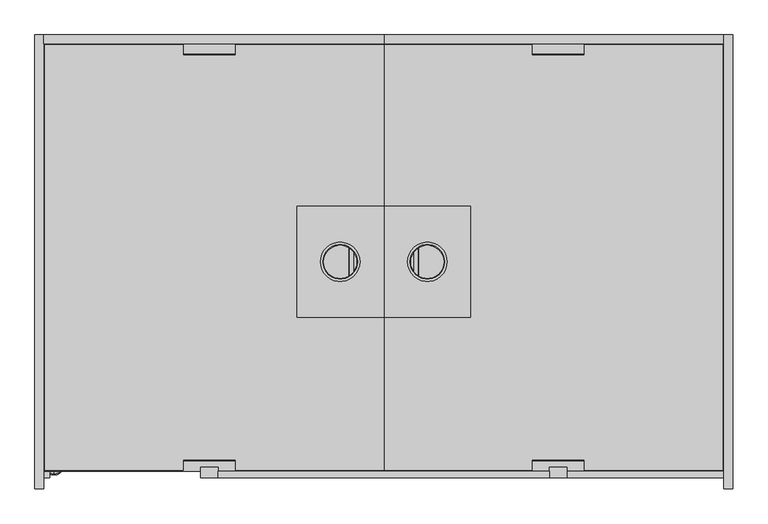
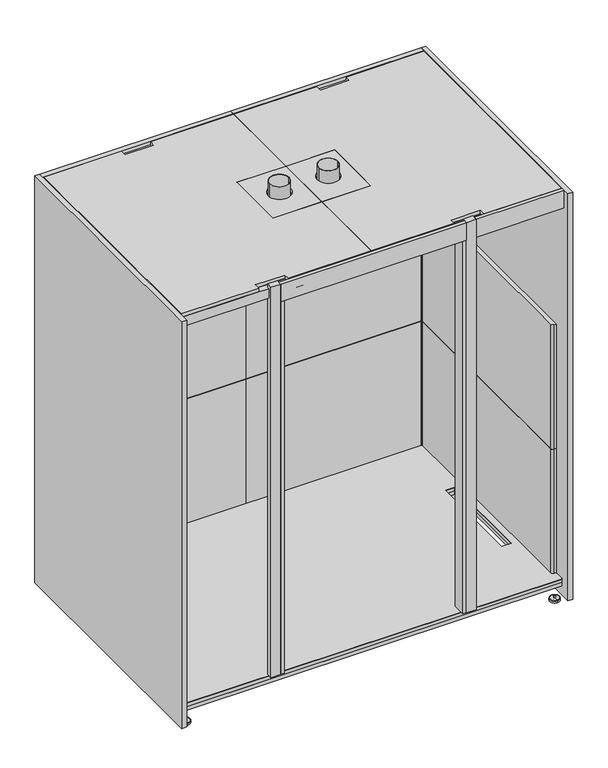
"""IFC4 building model written with IfcOpenShell, lengths in millimetres: furniture geometry, Mobiliário_Mobiliário de Escritório_Cabine Acústica 02 Pessoas - CT 02 PM FM_Marelli : Mobiliário_Mobiliário de Escritório_Cabine Acústica 02 Pessoas - CT 02 PM FM_Marelli."""

from ifc_helpers import new_model, si_unit, point, frame, frame_2d, origin, place, context, project, spatial, polyline, circle_curve, ellipse_curve, trimmed, segment, composite_curve, outline, extrude, faceted_brep, source, transform, mapped, element, save
from ifc_brep_helpers import plane_surface, cylinder_surface, revolved_surface, advanced_brep


def furniture_499643ce(model_context):
    return source(origin(), model_context, "Body", "SolidModel", [
        extrude(outline(polyline([(1000.0, 1300.0), (1000.0, 1275.0), (25.0, 1275.0), (25.0, 1300.0), (1000.0, 1300.0)])), frame((0.0, 0.0, 24.5), z_axis=(0.0, 0.0, 1.0), x_axis=(1.0, 0.0, 0.0)), (0.0, 0.0, 1.0), 2200.0),
        extrude(outline(polyline([(525.0, 50.0), (1475.0, 50.0), (1475.0, 32.0), (525.0, 32.0), (525.0, 50.0)])), frame((0.0, 0.0, 2128.5), z_axis=(0.0, 0.0, 1.0), x_axis=(1.0, 0.0, 0.0)), (0.0, 0.0, 1.0), 96.0),
        extrude(outline(polyline([(975.0, 945.0), (975.0, 915.0), (25.0, 915.0), (25.0, 945.0), (975.0, 945.0)])), frame((0.0, 0.0, 2156.5), z_axis=(0.0, 0.0, 1.0), x_axis=(1.0, 0.0, 0.0)), (0.0, 0.0, 1.0), 50.0),
        extrude(outline(polyline([(1945.0, 410.0), (1945.0, 380.0), (25.0, 380.0), (25.0, 410.0), (1945.0, 410.0)])), frame((0.0, 0.0, 2156.5), z_axis=(0.0, 0.0, 1.0), x_axis=(1.0, 0.0, 0.0)), (0.0, 0.0, 1.0), 50.0),
        extrude(outline(polyline([(43.0, 32.0), (25.0, 32.0), (25.0, 102.0), (43.0, 102.0), (43.0, 32.0)])), frame((0.0, 0.0, 114.5), z_axis=(0.0, 0.0, 1.0), x_axis=(1.0, 0.0, 0.0)), (0.0, 0.0, 1.0), 2014.0),
        extrude(outline(polyline([(475.0, 32.0), (475.0, 62.0), (525.0, 62.0), (525.0, 32.0), (475.0, 32.0)])), frame((0.0, 0.0, 114.5), z_axis=(0.0, 0.0, 1.0), x_axis=(1.0, 0.0, 0.0)), (0.0, 0.0, 1.0), 2110.0),
        extrude(outline(polyline([(1525.0, 32.0), (1475.0, 32.0), (1475.0, 62.0), (1525.0, 62.0), (1525.0, 32.0)])), frame((0.0, 0.0, 114.5), z_axis=(0.0, 0.0, 1.0), x_axis=(1.0, 0.0, 0.0)), (0.0, 0.0, 1.0), 2110.0),
        extrude(outline(composite_curve([segment(polyline([(25.0, 102.0), (25.0, 1275.0), (45.5304331, 1254.4695669)]), True, "CONTINUOUS"), segment(trimmed(circle_curve(frame_2d((43.1599032, 1251.4457873)), 3.84222), [point((45.5304331, 1254.4695669))], [point((47.0, 1251.3180705))], False, "CARTESIAN"), True, "CONTINUOUS"), segment(polyline([(47.0, 1251.3180705), (47.0, 1249.6361409), (47.0, 113.0)]), True, "CONTINUOUS"), segment(trimmed(circle_curve(frame_2d((36.0, 113.0)), 11.0), [point((47.0, 113.0))], [point((36.0, 102.0))], False, "CARTESIAN"), True, "CONTINUOUS"), segment(polyline([(36.0, 102.0), (25.0, 102.0)]), True, "CONTINUOUS")], self_intersect=False)), frame((0.0, 0.0, 1459.7), z_axis=(0.0, 0.0, 1.0), x_axis=(1.0, 0.0, 0.0)), (0.0, 0.0, 1.0), 671.8),
        extrude(outline(composite_curve([segment(polyline([(25.0, 102.0), (25.0, 1275.0), (45.5304331, 1254.4695669)]), True, "CONTINUOUS"), segment(trimmed(circle_curve(frame_2d((43.1599032, 1251.4457873)), 3.84222), [point((45.5304331, 1254.4695669))], [point((47.0, 1251.3180705))], False, "CARTESIAN"), True, "CONTINUOUS"), segment(polyline([(47.0, 1251.3180705), (47.0, 113.0)]), True, "CONTINUOUS"), segment(trimmed(circle_curve(frame_2d((36.0, 113.0)), 11.0), [point((47.0, 113.0))], [point((36.0, 102.0))], False, "CARTESIAN"), True, "CONTINUOUS"), segment(polyline([(36.0, 102.0), (25.0, 102.0)]), True, "CONTINUOUS")], self_intersect=False)), frame((0.0, 0.0, 787.1), z_axis=(0.0, 0.0, 1.0), x_axis=(1.0, 0.0, 0.0)), (0.0, 0.0, 1.0), 671.0),
        extrude(outline(composite_curve([segment(polyline([(25.0, 1275.0), (1975.0, 1275.0), (1954.4695669, 1254.4695669)]), True, "CONTINUOUS"), segment(trimmed(circle_curve(frame_2d((1951.4457873, 1256.8400968)), 3.84222), [point((1954.4695669, 1254.4695669))], [point((1951.3180705, 1253.0))], False, "CARTESIAN"), True, "CONTINUOUS"), segment(polyline([(1951.3180705, 1253.0), (1949.6361409, 1253.0), (1050.3638591, 1253.0), (48.6819295, 1253.0)]), True, "CONTINUOUS"), segment(trimmed(circle_curve(frame_2d((48.5542127, 1256.8400968)), 3.84222), [point((48.6819295, 1253.0))], [point((45.5304331, 1254.4695669))], False, "CARTESIAN"), True, "CONTINUOUS"), segment(polyline([(45.5304331, 1254.4695669), (25.0, 1275.0)]), True, "CONTINUOUS")], self_intersect=False)), frame((0.0, 0.0, 1459.7), z_axis=(0.0, 0.0, 1.0), x_axis=(1.0, 0.0, 0.0)), (0.0, 0.0, 1.0), 671.8),
        extrude(outline(composite_curve([segment(polyline([(1949.6361409, 1253.0), (1050.3638591, 1253.0), (48.6819295, 1253.0)]), True, "CONTINUOUS"), segment(trimmed(circle_curve(frame_2d((48.5542127, 1256.8400968)), 3.84222), [point((48.6819295, 1253.0))], [point((45.5304331, 1254.4695669))], False, "CARTESIAN"), True, "CONTINUOUS"), segment(polyline([(45.5304331, 1254.4695669), (25.0, 1275.0), (1975.0, 1275.0), (1954.4695669, 1254.4695669)]), True, "CONTINUOUS"), segment(trimmed(circle_curve(frame_2d((1951.4457873, 1256.8400968)), 3.84222), [point((1954.4695669, 1254.4695669))], [point((1951.3180705, 1253.0))], False, "CARTESIAN"), True, "CONTINUOUS"), segment(polyline([(1951.3180705, 1253.0), (1949.6361409, 1253.0)]), True, "CONTINUOUS")], self_intersect=False)), frame((0.0, 0.0, 787.1), z_axis=(0.0, 0.0, 1.0), x_axis=(1.0, 0.0, 0.0)), (0.0, 0.0, 1.0), 671.0),
        extrude(outline(composite_curve([segment(polyline([(1949.6361409, 1253.0), (1050.3638591, 1253.0), (48.6819295, 1253.0)]), True, "CONTINUOUS"), segment(trimmed(circle_curve(frame_2d((48.5542127, 1256.8400968)), 3.84222), [point((48.6819295, 1253.0))], [point((45.5304331, 1254.4695669))], False, "CARTESIAN"), True, "CONTINUOUS"), segment(polyline([(45.5304331, 1254.4695669), (25.0, 1275.0), (1975.0, 1275.0), (1954.4695669, 1254.4695669)]), True, "CONTINUOUS"), segment(trimmed(circle_curve(frame_2d((1951.4457873, 1256.8400968)), 3.84222), [point((1954.4695669, 1254.4695669))], [point((1951.3180705, 1253.0))], False, "CARTESIAN"), True, "CONTINUOUS"), segment(polyline([(1951.3180705, 1253.0), (1949.6361409, 1253.0)]), True, "CONTINUOUS")], self_intersect=False)), frame((0.0, 0.0, 113.5), z_axis=(0.0, 0.0, 1.0), x_axis=(1.0, 0.0, 0.0)), (0.0, 0.0, 1.0), 672.0),
        extrude(outline(composite_curve([segment(polyline([(1975.0, 102.0), (1964.0, 102.0)]), True, "CONTINUOUS"), segment(trimmed(circle_curve(frame_2d((1964.0, 113.0)), 11.0), [point((1964.0, 102.0))], [point((1953.0, 113.0))], False, "CARTESIAN"), True, "CONTINUOUS"), segment(polyline([(1953.0, 113.0), (1953.0, 1251.3180705)]), True, "CONTINUOUS"), segment(trimmed(circle_curve(frame_2d((1956.8400968, 1251.4457873)), 3.84222), [point((1953.0, 1251.3180705))], [point((1954.4695669, 1254.4695669))], False, "CARTESIAN"), True, "CONTINUOUS"), segment(polyline([(1954.4695669, 1254.4695669), (1975.0, 1275.0), (1975.0, 102.0)]), True, "CONTINUOUS")], self_intersect=False)), frame((0.0, 0.0, 787.1), z_axis=(0.0, 0.0, 1.0), x_axis=(1.0, 0.0, 0.0)), (0.0, 0.0, 1.0), 671.0),
        extrude(outline(composite_curve([segment(polyline([(1975.0, 102.0), (1964.0, 102.0)]), True, "CONTINUOUS"), segment(trimmed(circle_curve(frame_2d((1964.0, 113.0)), 11.0), [point((1964.0, 102.0))], [point((1953.0, 113.0))], False, "CARTESIAN"), True, "CONTINUOUS"), segment(polyline([(1953.0, 113.0), (1953.0, 1251.3180705)]), True, "CONTINUOUS"), segment(trimmed(circle_curve(frame_2d((1956.8400968, 1251.4457873)), 3.84222), [point((1953.0, 1251.3180705))], [point((1954.4695669, 1254.4695669))], False, "CARTESIAN"), True, "CONTINUOUS"), segment(polyline([(1954.4695669, 1254.4695669), (1975.0, 1275.0), (1975.0, 102.0)]), True, "CONTINUOUS")], self_intersect=False)), frame((0.0, 0.0, 113.5), z_axis=(0.0, 0.0, 1.0), x_axis=(1.0, 0.0, 0.0)), (0.0, 0.0, 1.0), 672.0),
        extrude(outline(polyline([(575.0, 53.0), (575.0, 83.0), (425.0, 83.0), (425.0, 53.0), (28.0, 53.0), (28.0, 1272.0), (425.0, 1272.0), (425.0, 1242.0), (575.0, 1242.0), (575.0, 1272.0), (1000.0, 1272.0), (1000.0, 810.0), (750.0, 810.0), (750.0, 490.0), (1000.0, 490.0), (1000.0, 53.0), (575.0, 53.0)])), frame((0.0, 0.0, 2206.5), z_axis=(0.0, 0.0, 1.0), x_axis=(1.0, 0.0, 0.0)), (0.0, 0.0, 1.0), 18.0),
        extrude(outline(polyline([(1000.0, 810.0), (1000.0, 490.0), (750.0, 490.0), (750.0, 810.0), (1000.0, 810.0)]), holes=[composite_curve([segment(trimmed(circle_curve(frame_2d((875.0, 650.0)), 56.55), [point((818.45, 650.0))], [point((931.55, 650.0))], True, "CARTESIAN"), True, "CONTINUOUS"), segment(trimmed(circle_curve(frame_2d((875.0, 650.0)), 56.55), [point((931.55, 650.0))], [point((818.45, 650.0))], True, "CARTESIAN"), True, "CONTINUOUS")], self_intersect=False)]), frame((0.0, 0.0, 2206.5), z_axis=(0.0, 0.0, 1.0), x_axis=(1.0, 0.0, 0.0)), (0.0, 0.0, 1.0), 18.0),
        extrude(outline(composite_curve([segment(trimmed(circle_curve(frame_2d((875.0, 650.0)), 78.05), [point((796.95, 650.0))], [point((953.05, 650.0))], False, "CARTESIAN"), True, "CONTINUOUS"), segment(trimmed(circle_curve(frame_2d((875.0, 650.0)), 78.05), [point((953.05, 650.0))], [point((796.95, 650.0))], False, "CARTESIAN"), True, "CONTINUOUS")], self_intersect=False), holes=[composite_curve([segment(trimmed(circle_curve(frame_2d((875.0, 650.0)), 47.3), [point((827.7, 650.0))], [point((922.3, 650.0))], True, "CARTESIAN"), True, "CONTINUOUS"), segment(trimmed(circle_curve(frame_2d((875.0, 650.0)), 47.3), [point((922.3, 650.0))], [point((827.7, 650.0))], True, "CARTESIAN"), True, "CONTINUOUS")], self_intersect=False)]), frame((0.0, 0.0, 2202.9), z_axis=(0.0, 0.0, 1.0), x_axis=(1.0, 0.0, 0.0)), (0.0, 0.0, 1.0), 3.6),
        extrude(outline(composite_curve([segment(trimmed(circle_curve(frame_2d((875.0, 650.0)), 49.25), [point((825.75, 650.0))], [point((924.25, 650.0))], False, "CARTESIAN"), True, "CONTINUOUS"), segment(trimmed(circle_curve(frame_2d((875.0, 650.0)), 49.25), [point((924.25, 650.0))], [point((825.75, 650.0))], False, "CARTESIAN"), True, "CONTINUOUS")], self_intersect=False), holes=[composite_curve([segment(trimmed(circle_curve(frame_2d((875.0, 650.0)), 47.3), [point((922.3, 650.0))], [point((827.7, 650.0))], True, "CARTESIAN"), True, "CONTINUOUS"), segment(trimmed(circle_curve(frame_2d((875.0, 650.0)), 47.3), [point((827.7, 650.0))], [point((922.3, 650.0))], True, "CARTESIAN"), True, "CONTINUOUS")], self_intersect=False)]), frame((0.0, 0.0, 2206.5), z_axis=(0.0, 0.0, 1.0), x_axis=(1.0, 0.0, 0.0)), (0.0, 0.0, 1.0), 80.0),
        extrude(outline(composite_curve([segment(polyline([(1252.9978767, 2109.5), (124.0, 2109.5)]), True, "CONTINUOUS"), segment(trimmed(circle_curve(frame_2d((124.0, 2131.5)), 22.0), [point((124.0, 2109.5))], [point((102.0, 2131.5))], False, "CARTESIAN"), True, "CONTINUOUS"), segment(polyline([(102.0, 2131.5), (1252.9978767, 2131.5), (1252.9978767, 2109.5)]), True, "CONTINUOUS")], self_intersect=False)), frame((47.0, 0.0, 0.0), z_axis=(1.0, 0.0, 0.0), x_axis=(0.0, 1.0, 0.0)), (0.0, 0.0, 1.0), 635.333),
        extrude(outline(composite_curve([segment(trimmed(circle_curve(frame_2d((556.9631087, 706.9631087)), 3.0368913), [point((556.9631087, 710.0))], [point((560.0, 706.9631087))], False, "CARTESIAN"), True, "CONTINUOUS"), segment(polyline([(560.0, 706.9631087), (560.0, 593.0368913)]), True, "CONTINUOUS"), segment(trimmed(circle_curve(frame_2d((556.9631087, 593.0368913)), 3.0368913), [point((560.0, 593.0368913))], [point((556.9631087, 590.0))], False, "CARTESIAN"), True, "CONTINUOUS"), segment(polyline([(556.9631087, 590.0), (443.0368913, 590.0)]), True, "CONTINUOUS"), segment(trimmed(circle_curve(frame_2d((443.0368913, 593.0368913)), 3.0368913), [point((443.0368913, 590.0))], [point((440.0, 593.0368913))], False, "CARTESIAN"), True, "CONTINUOUS"), segment(polyline([(440.0, 593.0368913), (440.0, 706.9631087)]), True, "CONTINUOUS"), segment(trimmed(circle_curve(frame_2d((443.0368913, 706.9631087)), 3.0368913), [point((440.0, 706.9631087))], [point((443.0368913, 710.0))], False, "CARTESIAN"), True, "CONTINUOUS"), segment(polyline([(443.0368913, 710.0), (556.9631087, 710.0)]), True, "CONTINUOUS")], self_intersect=False), holes=[composite_curve([segment(polyline([(496.0, 700.0), (496.0, 600.0)]), True, "CONTINUOUS"), segment(trimmed(circle_curve(frame_2d((500.0, 600.0)), 4.0), [point((496.0, 600.0))], [point((504.0, 600.0))], True, "CARTESIAN"), True, "CONTINUOUS"), segment(polyline([(504.0, 600.0), (504.0, 700.0)]), True, "CONTINUOUS"), segment(trimmed(circle_curve(frame_2d((500.0, 700.0)), 4.0), [point((504.0, 700.0))], [point((496.0, 700.0))], True, "CARTESIAN"), True, "CONTINUOUS")], self_intersect=False), composite_curve([segment(polyline([(480.0, 690.0), (480.0, 610.0)]), True, "CONTINUOUS"), segment(trimmed(circle_curve(frame_2d((484.0, 610.0)), 4.0), [point((480.0, 610.0))], [point((488.0, 610.0))], True, "CARTESIAN"), True, "CONTINUOUS"), segment(polyline([(488.0, 610.0), (488.0, 690.0)]), True, "CONTINUOUS"), segment(trimmed(circle_curve(frame_2d((484.0, 690.0)), 4.0), [point((488.0, 690.0))], [point((480.0, 690.0))], True, "CARTESIAN"), True, "CONTINUOUS")], self_intersect=False), composite_curve([segment(polyline([(464.0, 680.0), (464.0, 620.0)]), True, "CONTINUOUS"), segment(trimmed(circle_curve(frame_2d((468.0, 620.0)), 4.0), [point((464.0, 620.0))], [point((472.0, 620.0))], True, "CARTESIAN"), True, "CONTINUOUS"), segment(polyline([(472.0, 620.0), (472.0, 680.0)]), True, "CONTINUOUS"), segment(trimmed(circle_curve(frame_2d((468.0, 680.0)), 4.0), [point((472.0, 680.0))], [point((464.0, 680.0))], True, "CARTESIAN"), True, "CONTINUOUS")], self_intersect=False), composite_curve([segment(polyline([(448.0, 670.0), (448.0, 630.0)]), True, "CONTINUOUS"), segment(trimmed(circle_curve(frame_2d((452.0, 630.0)), 4.0), [point((448.0, 630.0))], [point((456.0, 630.0))], True, "CARTESIAN"), True, "CONTINUOUS"), segment(polyline([(456.0, 630.0), (456.0, 670.0)]), True, "CONTINUOUS"), segment(trimmed(circle_curve(frame_2d((452.0, 670.0)), 4.0), [point((456.0, 670.0))], [point((448.0, 670.0))], True, "CARTESIAN"), True, "CONTINUOUS")], self_intersect=False), composite_curve([segment(trimmed(circle_curve(frame_2d((516.0, 690.0)), 4.0), [point((520.0, 690.0))], [point((512.0, 690.0))], True, "CARTESIAN"), True, "CONTINUOUS"), segment(polyline([(512.0, 690.0), (512.0, 610.0)]), True, "CONTINUOUS"), segment(trimmed(circle_curve(frame_2d((516.0, 610.0)), 4.0), [point((512.0, 610.0))], [point((520.0, 610.0))], True, "CARTESIAN"), True, "CONTINUOUS"), segment(polyline([(520.0, 610.0), (520.0, 690.0)]), True, "CONTINUOUS")], self_intersect=False), composite_curve([segment(trimmed(circle_curve(frame_2d((532.0, 680.0)), 4.0), [point((536.0, 680.0))], [point((528.0, 680.0))], True, "CARTESIAN"), True, "CONTINUOUS"), segment(polyline([(528.0, 680.0), (528.0, 620.0)]), True, "CONTINUOUS"), segment(trimmed(circle_curve(frame_2d((532.0, 620.0)), 4.0), [point((528.0, 620.0))], [point((536.0, 620.0))], True, "CARTESIAN"), True, "CONTINUOUS"), segment(polyline([(536.0, 620.0), (536.0, 680.0)]), True, "CONTINUOUS")], self_intersect=False), composite_curve([segment(trimmed(circle_curve(frame_2d((548.0, 670.0)), 4.0), [point((552.0, 670.0))], [point((544.0, 670.0))], True, "CARTESIAN"), True, "CONTINUOUS"), segment(polyline([(544.0, 670.0), (544.0, 630.0)]), True, "CONTINUOUS"), segment(trimmed(circle_curve(frame_2d((548.0, 630.0)), 4.0), [point((544.0, 630.0))], [point((552.0, 630.0))], True, "CARTESIAN"), True, "CONTINUOUS"), segment(polyline([(552.0, 630.0), (552.0, 670.0)]), True, "CONTINUOUS")], self_intersect=False)]), frame((0.0, 0.0, 2107.4845827), z_axis=(0.0, 0.0, 1.0), x_axis=(1.0, 0.0, 0.0)), (0.0, 0.0, 1.0), 2.0154173),
        extrude(outline(polyline([(1975.0, 1275.0), (1975.0, 50.0), (25.0, 50.0), (25.0, 1275.0), (1975.0, 1275.0)]), holes=[polyline([(83.95, 900.0), (83.95, 400.0), (131.05, 400.0), (131.05, 900.0), (83.95, 900.0)]), polyline([(1916.05, 400.0), (1916.05, 900.0), (1868.95, 900.0), (1868.95, 400.0), (1916.05, 400.0)])]), frame((0.0, 0.0, 74.5), z_axis=(0.0, 0.0, 1.0), x_axis=(1.0, 0.0, 0.0)), (0.0, 0.0, 1.0), 18.0),
        advanced_brep(
        [(1945.0, 65.0, 0.0), (1945.0, 40.0, 0.0), (1945.0, 90.0, 0.0), (1945.0, 87.4638086, 12.5), (1945.0, 42.5361914, 12.5), (1945.0, 65.0, 12.5), (1945.0, 90.0, 9.9638086), (1945.0, 40.0, 9.9638086)],
        [
            (0, 1),
            (1, 2, circle_curve(frame((1945.0, 65.0, 0.0), z_axis=(0.0, 0.0, -1.0), x_axis=(0.0, -1.0, 0.0)), 25.0)),
            (2, 0),
            (2, 1, circle_curve(frame((1945.0, 65.0, 0.0), z_axis=(0.0, 0.0, -1.0), x_axis=(0.0, -1.0, 0.0)), 25.0)),
            (3, 4, circle_curve(frame((1945.0, 65.0, 12.5), z_axis=(0.0, 0.0, 1.0), x_axis=(0.0, -1.0, 0.0)), 22.4638086)),
            (4, 5),
            (5, 3),
            (4, 3, circle_curve(frame((1945.0, 65.0, 12.5), z_axis=(0.0, 0.0, 1.0), x_axis=(0.0, -1.0, 0.0)), 22.4638086)),
            (6, 7, circle_curve(frame((1945.0, 65.0, 9.9638086), z_axis=(0.0, 0.0, 1.0), x_axis=(0.0, -1.0, 0.0)), 25.0)),
            (7, 4, circle_curve(frame((1945.0, 42.5361914, 9.9638086), z_axis=(-1.0, 0.0, 0.0), x_axis=(0.0, 1.0, 0.0)), 2.5361914)),
            (3, 6, circle_curve(frame((1945.0, 87.4638086, 9.9638086), z_axis=(-1.0, 0.0, 0.0), x_axis=(0.0, -1.0, 0.0)), 2.5361914)),
            (7, 6, circle_curve(frame((1945.0, 65.0, 9.9638086), z_axis=(0.0, 0.0, 1.0), x_axis=(0.0, -1.0, 0.0)), 25.0)),
            (1, 7),
            (6, 2),
        ],
        [
            plane_surface(frame((1945.0, 65.0, 0.0), z_axis=(0.0, 0.0, -1.0), x_axis=(0.0, -1.0, 0.0))),
            plane_surface(frame((1945.0, 65.0, 12.5), z_axis=(0.0, 0.0, 1.0), x_axis=(0.0, -1.0, 0.0))),
            revolved_surface(trimmed(ellipse_curve(frame((1945.0, 42.5361914, 9.9638086), z_axis=(1.0, 0.0, 0.0), x_axis=(0.0, 1.0, 0.0)), 2.5361914, 2.5361914), [point((1945.0, 42.5361914, 12.5))], [point((1945.0, 40.0, 9.9638086))], True, "CARTESIAN"), (1945.0, 65.0, 15.0), (0.0, 0.0, -1.0)),
            cylinder_surface(frame((1945.0, 65.0, 15.0), z_axis=(0.0, 0.0, -1.0), x_axis=(0.0, -1.0, 0.0)), 25.0),
        ],
        [
            (0, [[1, 2, 3]]),
            (0, [[-3, 4, -1]]),
            (1, [[5, 6, 7]]),
            (1, [[8, -7, -6]]),
            (2, [[9, 10, -5, 11]]),
            (2, [[12, -11, -8, -10]]),
            (3, [[-2, 13, -9, 14]]),
            (3, [[-4, -14, -12, -13]]),
        ],
    ),
        extrude(outline(composite_curve([segment(trimmed(circle_curve(frame_2d((1945.0, 65.0)), 5.0), [point((1940.0, 65.0))], [point((1950.0, 65.0))], False, "CARTESIAN"), True, "CONTINUOUS"), segment(trimmed(circle_curve(frame_2d((1945.0, 65.0)), 5.0), [point((1950.0, 65.0))], [point((1940.0, 65.0))], False, "CARTESIAN"), True, "CONTINUOUS")], self_intersect=False)), frame((0.0, 0.0, 12.5), z_axis=(0.0, 0.0, 1.0), x_axis=(1.0, 0.0, 0.0)), (0.0, 0.0, 1.0), 12.0),
        advanced_brep(
        [(55.0, 90.0, 0.0), (55.0, 40.0, 0.0), (55.0, 65.0, 0.0), (55.0, 65.0, 12.5), (55.0, 42.5361914, 12.5), (55.0, 87.4638086, 12.5), (55.0, 40.0, 9.9638086), (55.0, 90.0, 9.9638086)],
        [
            (0, 1, circle_curve(frame((55.0, 65.0, 0.0), z_axis=(0.0, 0.0, -1.0), x_axis=(0.0, -1.0, 0.0)), 25.0)),
            (1, 2),
            (2, 0),
            (1, 0, circle_curve(frame((55.0, 65.0, 0.0), z_axis=(0.0, 0.0, -1.0), x_axis=(0.0, -1.0, 0.0)), 25.0)),
            (3, 4),
            (4, 5, circle_curve(frame((55.0, 65.0, 12.5), z_axis=(0.0, 0.0, 1.0), x_axis=(0.0, -1.0, 0.0)), 22.4638086)),
            (5, 3),
            (5, 4, circle_curve(frame((55.0, 65.0, 12.5), z_axis=(0.0, 0.0, 1.0), x_axis=(0.0, -1.0, 0.0)), 22.4638086)),
            (4, 6, circle_curve(frame((55.0, 42.5361914, 9.9638086), z_axis=(1.0, 0.0, 0.0), x_axis=(0.0, 1.0, 0.0)), 2.5361914)),
            (6, 7, circle_curve(frame((55.0, 65.0, 9.9638086), z_axis=(0.0, 0.0, 1.0), x_axis=(0.0, -1.0, 0.0)), 25.0)),
            (7, 5, circle_curve(frame((55.0, 87.4638086, 9.9638086), z_axis=(1.0, 0.0, 0.0), x_axis=(0.0, -1.0, 0.0)), 2.5361914)),
            (7, 6, circle_curve(frame((55.0, 65.0, 9.9638086), z_axis=(0.0, 0.0, 1.0), x_axis=(0.0, -1.0, 0.0)), 25.0)),
            (6, 1),
            (0, 7),
        ],
        [
            plane_surface(frame((55.0, 65.0, 0.0), z_axis=(0.0, 0.0, -1.0), x_axis=(0.0, -1.0, 0.0))),
            plane_surface(frame((55.0, 65.0, 12.5), z_axis=(0.0, 0.0, 1.0), x_axis=(0.0, -1.0, 0.0))),
            revolved_surface(trimmed(ellipse_curve(frame((55.0, 42.5361914, 9.9638086), z_axis=(-1.0, 0.0, 0.0), x_axis=(0.0, 1.0, 0.0)), 2.5361914, 2.5361914), [point((55.0, 40.0, 9.9638086))], [point((55.0, 42.5361914, 12.5))], True, "CARTESIAN"), (55.0, 65.0, 15.0), (0.0, 0.0, 1.0)),
            cylinder_surface(frame((55.0, 65.0, 15.0), z_axis=(0.0, 0.0, 1.0), x_axis=(0.0, -1.0, 0.0)), 25.0),
        ],
        [
            (0, [[1, 2, 3]]),
            (0, [[4, -3, -2]]),
            (1, [[5, 6, 7]]),
            (1, [[-7, 8, -5]]),
            (2, [[-6, 9, 10, 11]]),
            (2, [[-8, -11, 12, -9]]),
            (3, [[-10, 13, -1, 14]]),
            (3, [[-12, -14, -4, -13]]),
        ],
    ),
        extrude(outline(composite_curve([segment(trimmed(circle_curve(frame_2d((55.0, 65.0)), 5.0), [point((60.0, 65.0))], [point((50.0, 65.0))], False, "CARTESIAN"), True, "CONTINUOUS"), segment(trimmed(circle_curve(frame_2d((55.0, 65.0)), 5.0), [point((50.0, 65.0))], [point((60.0, 65.0))], False, "CARTESIAN"), True, "CONTINUOUS")], self_intersect=False)), frame((0.0, 0.0, 12.5), z_axis=(0.0, 0.0, 1.0), x_axis=(1.0, 0.0, 0.0)), (0.0, 0.0, 1.0), 12.0),
        advanced_brep(
        [(1945.0, 1210.0, 0.0), (1945.0, 1260.0, 0.0), (1945.0, 1235.0, 0.0), (1945.0, 1235.0, 12.5), (1945.0, 1257.4638086, 12.5), (1945.0, 1212.5361914, 12.5), (1945.0, 1260.0, 9.9638086), (1945.0, 1210.0, 9.9638086)],
        [
            (0, 1, circle_curve(frame((1945.0, 1235.0, 0.0), z_axis=(0.0, 0.0, -1.0), x_axis=(0.0, 1.0, 0.0)), 25.0)),
            (1, 2),
            (2, 0),
            (1, 0, circle_curve(frame((1945.0, 1235.0, 0.0), z_axis=(0.0, 0.0, -1.0), x_axis=(0.0, 1.0, 0.0)), 25.0)),
            (3, 4),
            (4, 5, circle_curve(frame((1945.0, 1235.0, 12.5), z_axis=(0.0, 0.0, 1.0), x_axis=(0.0, 1.0, 0.0)), 22.4638086)),
            (5, 3),
            (5, 4, circle_curve(frame((1945.0, 1235.0, 12.5), z_axis=(0.0, 0.0, 1.0), x_axis=(0.0, 1.0, 0.0)), 22.4638086)),
            (4, 6, circle_curve(frame((1945.0, 1257.4638086, 9.9638086), z_axis=(-1.0, 0.0, 0.0), x_axis=(0.0, -1.0, 0.0)), 2.5361914)),
            (6, 7, circle_curve(frame((1945.0, 1235.0, 9.9638086), z_axis=(0.0, 0.0, 1.0), x_axis=(0.0, 1.0, 0.0)), 25.0)),
            (7, 5, circle_curve(frame((1945.0, 1212.5361914, 9.9638086), z_axis=(-1.0, 0.0, 0.0), x_axis=(0.0, 1.0, 0.0)), 2.5361914)),
            (7, 6, circle_curve(frame((1945.0, 1235.0, 9.9638086), z_axis=(0.0, 0.0, 1.0), x_axis=(0.0, 1.0, 0.0)), 25.0)),
            (6, 1),
            (0, 7),
        ],
        [
            plane_surface(frame((1945.0, 1235.0, 0.0), z_axis=(0.0, 0.0, -1.0), x_axis=(0.0, 1.0, 0.0))),
            plane_surface(frame((1945.0, 1235.0, 12.5), z_axis=(0.0, 0.0, 1.0), x_axis=(0.0, 1.0, 0.0))),
            revolved_surface(trimmed(ellipse_curve(frame((1945.0, 1257.4638086, 9.9638086), z_axis=(1.0, 0.0, 0.0), x_axis=(0.0, -1.0, 0.0)), 2.5361914, 2.5361914), [point((1945.0, 1260.0, 9.9638086))], [point((1945.0, 1257.4638086, 12.5))], True, "CARTESIAN"), (1945.0, 1235.0, 15.0), (0.0, 0.0, 1.0)),
            cylinder_surface(frame((1945.0, 1235.0, 15.0), z_axis=(0.0, 0.0, 1.0), x_axis=(0.0, 1.0, 0.0)), 25.0),
        ],
        [
            (0, [[1, 2, 3]]),
            (0, [[4, -3, -2]]),
            (1, [[5, 6, 7]]),
            (1, [[-7, 8, -5]]),
            (2, [[-6, 9, 10, 11]]),
            (2, [[-8, -11, 12, -9]]),
            (3, [[-10, 13, -1, 14]]),
            (3, [[-12, -14, -4, -13]]),
        ],
    ),
        extrude(outline(composite_curve([segment(trimmed(circle_curve(frame_2d((1945.0, 1235.0)), 5.0), [point((1940.0, 1235.0))], [point((1950.0, 1235.0))], False, "CARTESIAN"), True, "CONTINUOUS"), segment(trimmed(circle_curve(frame_2d((1945.0, 1235.0)), 5.0), [point((1950.0, 1235.0))], [point((1940.0, 1235.0))], False, "CARTESIAN"), True, "CONTINUOUS")], self_intersect=False)), frame((0.0, 0.0, 12.5), z_axis=(0.0, 0.0, 1.0), x_axis=(1.0, 0.0, 0.0)), (0.0, 0.0, 1.0), 12.0),
        advanced_brep(
        [(55.0, 1235.0, 0.0), (55.0, 1260.0, 0.0), (55.0, 1210.0, 0.0), (55.0, 1212.5361914, 12.5), (55.0, 1257.4638086, 12.5), (55.0, 1235.0, 12.5), (55.0, 1210.0, 9.9638086), (55.0, 1260.0, 9.9638086)],
        [
            (0, 1),
            (1, 2, circle_curve(frame((55.0, 1235.0, 0.0), z_axis=(0.0, 0.0, -1.0), x_axis=(0.0, 1.0, 0.0)), 25.0)),
            (2, 0),
            (2, 1, circle_curve(frame((55.0, 1235.0, 0.0), z_axis=(0.0, 0.0, -1.0), x_axis=(0.0, 1.0, 0.0)), 25.0)),
            (3, 4, circle_curve(frame((55.0, 1235.0, 12.5), z_axis=(0.0, 0.0, 1.0), x_axis=(0.0, 1.0, 0.0)), 22.4638086)),
            (4, 5),
            (5, 3),
            (4, 3, circle_curve(frame((55.0, 1235.0, 12.5), z_axis=(0.0, 0.0, 1.0), x_axis=(0.0, 1.0, 0.0)), 22.4638086)),
            (6, 7, circle_curve(frame((55.0, 1235.0, 9.9638086), z_axis=(0.0, 0.0, 1.0), x_axis=(0.0, 1.0, 0.0)), 25.0)),
            (7, 4, circle_curve(frame((55.0, 1257.4638086, 9.9638086), z_axis=(1.0, 0.0, 0.0), x_axis=(0.0, -1.0, 0.0)), 2.5361914)),
            (3, 6, circle_curve(frame((55.0, 1212.5361914, 9.9638086), z_axis=(1.0, 0.0, 0.0), x_axis=(0.0, 1.0, 0.0)), 2.5361914)),
            (7, 6, circle_curve(frame((55.0, 1235.0, 9.9638086), z_axis=(0.0, 0.0, 1.0), x_axis=(0.0, 1.0, 0.0)), 25.0)),
            (1, 7),
            (6, 2),
        ],
        [
            plane_surface(frame((55.0, 1235.0, 0.0), z_axis=(0.0, 0.0, -1.0), x_axis=(0.0, 1.0, 0.0))),
            plane_surface(frame((55.0, 1235.0, 12.5), z_axis=(0.0, 0.0, 1.0), x_axis=(0.0, 1.0, 0.0))),
            revolved_surface(trimmed(ellipse_curve(frame((55.0, 1257.4638086, 9.9638086), z_axis=(-1.0, 0.0, 0.0), x_axis=(0.0, -1.0, 0.0)), 2.5361914, 2.5361914), [point((55.0, 1257.4638086, 12.5))], [point((55.0, 1260.0, 9.9638086))], True, "CARTESIAN"), (55.0, 1235.0, 15.0), (0.0, 0.0, -1.0)),
            cylinder_surface(frame((55.0, 1235.0, 15.0), z_axis=(0.0, 0.0, -1.0), x_axis=(0.0, 1.0, 0.0)), 25.0),
        ],
        [
            (0, [[1, 2, 3]]),
            (0, [[-3, 4, -1]]),
            (1, [[5, 6, 7]]),
            (1, [[8, -7, -6]]),
            (2, [[9, 10, -5, 11]]),
            (2, [[12, -11, -8, -10]]),
            (3, [[-2, 13, -9, 14]]),
            (3, [[-4, -14, -12, -13]]),
        ],
    ),
        extrude(outline(composite_curve([segment(trimmed(circle_curve(frame_2d((55.0, 1235.0)), 5.0), [point((60.0, 1235.0))], [point((50.0, 1235.0))], False, "CARTESIAN"), True, "CONTINUOUS"), segment(trimmed(circle_curve(frame_2d((55.0, 1235.0)), 5.0), [point((50.0, 1235.0))], [point((60.0, 1235.0))], False, "CARTESIAN"), True, "CONTINUOUS")], self_intersect=False)), frame((0.0, 0.0, 12.5), z_axis=(0.0, 0.0, 1.0), x_axis=(1.0, 0.0, 0.0)), (0.0, 0.0, 1.0), 12.0),
        faceted_brep([(1100.0, 750.0, 2073.5), (1100.0, 750.0, 2109.5), (1100.0, 550.0, 2109.5), (1100.0, 550.0, 2073.5), (1080.5, 730.5, 2075.4509584), (1080.5, 730.5, 2073.5), (1080.5, 569.5, 2073.5), (1080.5, 569.5, 2075.4509584), (1098.0292937, 748.0292937, 2109.5), (1098.0292937, 748.0292937, 2075.4509584), (1098.0292937, 551.9707063, 2075.4509584), (1098.0292937, 551.9707063, 2109.5), (900.0, 550.0, 2109.5), (900.0, 550.0, 2073.5), (919.5, 569.5, 2073.5), (919.5, 569.5, 2075.4509584), (901.9707063, 551.9707063, 2075.4509584), (901.9707063, 551.9707063, 2109.5), (900.0, 750.0, 2109.5), (900.0, 750.0, 2073.5), (919.5, 730.5, 2073.5), (919.5, 730.5, 2075.4509584), (901.9707063, 748.0292937, 2075.4509584), (901.9707063, 748.0292937, 2109.5)], [[[0, 1, 2, 3]], [[4, 5, 6, 7]], [[8, 9, 10, 11]], [[3, 2, 12, 13]], [[7, 6, 14, 15]], [[11, 10, 16, 17]], [[13, 12, 18, 19]], [[15, 14, 20, 21]], [[17, 16, 22, 23]], [[19, 18, 1, 0]], [[3, 13, 19, 0], [5, 20, 14, 6]], [[21, 20, 5, 4]], [[9, 22, 16, 10], [7, 15, 21, 4]], [[23, 22, 9, 8]], [[1, 18, 12, 2], [11, 17, 23, 8]]]),
        extrude(outline(polyline([(1085.0, 735.0), (1085.0, 565.0), (915.0, 565.0), (915.0, 735.0), (1085.0, 735.0)])), frame((0.0, 0.0, 2075.4509584), z_axis=(0.0, 0.0, 1.0), x_axis=(1.0, 0.0, 0.0)), (0.0, 0.0, 1.0), 2.9763056),
        extrude(outline(polyline([(25.0, 0.0), (0.0, 0.0), (0.0, 1300.0), (25.0, 1300.0), (25.0, 0.0)])), frame((0.0, 0.0, 24.5), z_axis=(0.0, 0.0, 1.0), x_axis=(1.0, 0.0, 0.0)), (0.0, 0.0, 1.0), 2200.0),
        extrude(outline(polyline([(2000.0, 0.0), (1975.0, 0.0), (1975.0, 1300.0), (2000.0, 1300.0), (2000.0, 0.0)])), frame((0.0, 0.0, 24.5), z_axis=(0.0, 0.0, 1.0), x_axis=(1.0, 0.0, 0.0)), (0.0, 0.0, 1.0), 2200.0),
        advanced_brep(
        [(47.0, 254.0, 1233.5), (47.0, 175.0, 1233.5), (48.015509, 175.0, 1233.5), (48.015509, 254.0, 1233.5), (47.0, 254.0, 1113.5), (48.015509, 254.0, 1113.5), (48.015509, 175.0, 1113.5), (47.0, 175.0, 1113.5), (51.4706585, 192.5, 1211.0), (51.4706585, 236.5, 1211.0), (51.4706585, 236.5, 1136.0), (51.4706585, 192.5, 1136.0), (48.015509, 236.5, 1211.0), (48.015509, 192.5, 1211.0), (48.015509, 192.5, 1136.0), (48.015509, 236.5, 1136.0)],
        [
            (0, 1),
            (1, 2),
            (2, 3, circle_curve(frame((-106.0027088, 214.5, 1233.5), z_axis=(0.0, 0.0, 1.0), x_axis=(1.0, 0.0, 0.0)), 159.0027088)),
            (3, 0),
            (4, 5),
            (5, 6, circle_curve(frame((-106.0027088, 214.5, 1113.5), z_axis=(0.0, 0.0, -1.0), x_axis=(1.0, 0.0, 0.0)), 159.0027088)),
            (6, 7),
            (7, 4),
            (0, 4),
            (7, 1),
            (6, 2),
            (5, 3),
            (8, 9, circle_curve(frame((-106.0027088, 214.5, 1211.0), z_axis=(0.0, 0.0, 1.0), x_axis=(1.0, 0.0, 0.0)), 159.0027088)),
            (9, 10),
            (10, 11, circle_curve(frame((-106.0027088, 214.5, 1136.0), z_axis=(0.0, 0.0, -1.0), x_axis=(1.0, 0.0, 0.0)), 159.0027088)),
            (11, 8),
            (12, 13),
            (13, 14),
            (14, 15),
            (15, 12),
            (12, 9),
            (8, 13),
            (11, 14),
            (10, 15),
        ],
        [
            plane_surface(frame((47.0, 175.0, 1233.5), z_axis=(0.0, 0.0, 1.0), x_axis=(0.0, -1.0, 0.0))),
            plane_surface(frame((47.0, 175.0, 1113.5), z_axis=(0.0, 0.0, -1.0), x_axis=(0.0, 1.0, 0.0))),
            plane_surface(frame((47.0, 254.0, 1233.5), z_axis=(-1.0, 0.0, 0.0), x_axis=(0.0, 0.0, -1.0))),
            plane_surface(frame((47.0, 175.0, 1233.5), z_axis=(0.0, -1.0, 0.0), x_axis=(0.0, 0.0, -1.0))),
            cylinder_surface(frame((-106.0027088, 214.5, 1113.5), z_axis=(0.0, 0.0, 1.0), x_axis=(1.0, 0.0, 0.0)), 159.0027088),
            plane_surface(frame((48.015509, 254.0, 1233.5), z_axis=(0.0, 1.0, 0.0), x_axis=(0.0, 0.0, -1.0))),
            plane_surface(frame((48.015509, 192.5, 1211.0), z_axis=(1.0, 0.0, 0.0), x_axis=(0.0, 1.0, 0.0))),
            plane_surface(frame((115.0, 236.5, 1211.0), z_axis=(0.0, 0.0, -1.0), x_axis=(-1.0, 0.0, 0.0))),
            plane_surface(frame((115.0, 192.5, 1211.0), z_axis=(0.0, 1.0, 0.0), x_axis=(-1.0, 0.0, 0.0))),
            plane_surface(frame((115.0, 192.5, 1136.0), z_axis=(0.0, 0.0, 1.0), x_axis=(-1.0, 0.0, 0.0))),
            plane_surface(frame((115.0, 236.5, 1136.0), z_axis=(0.0, -1.0, 0.0), x_axis=(-1.0, 0.0, 0.0))),
        ],
        [
            (0, [[1, 2, 3, 4]]),
            (1, [[5, 6, 7, 8]]),
            (2, [[-1, 9, -8, 10]]),
            (3, [[-2, -10, -7, 11]]),
            (4, [[-3, -11, -6, 12], [13, 14, 15, 16]]),
            (5, [[-4, -12, -5, -9]]),
            (6, [[17, 18, 19, 20]]),
            (7, [[-17, 21, -13, 22]]),
            (8, [[-18, -22, -16, 23]]),
            (9, [[-19, -23, -15, 24]]),
            (10, [[-20, -24, -14, -21]]),
        ],
    ),
        extrude(outline(polyline([(236.5, 1136.0), (192.5, 1136.0), (192.5, 1161.0), (236.5, 1161.0), (236.5, 1136.0)]), holes=[composite_curve([segment(trimmed(circle_curve(frame_2d((230.2939968, 1148.5)), 2.2060032), [point((231.76627, 1146.8571787))], [point((231.76627, 1150.1428213))], True, "CARTESIAN"), True, "CONTINUOUS"), segment(polyline([(231.76627, 1150.1428213), (225.2005604, 1156.7085309)]), True, "CONTINUOUS"), segment(trimmed(circle_curve(frame_2d((223.5077688, 1155.2939968)), 2.2060032), [point((225.2005604, 1156.7085309))], [point((223.5077688, 1157.5))], True, "CARTESIAN"), True, "CONTINUOUS"), segment(polyline([(223.5077688, 1157.5), (205.4922312, 1157.5)]), True, "CONTINUOUS"), segment(trimmed(circle_curve(frame_2d((205.4922312, 1155.2939968)), 2.2060032), [point((205.4922312, 1157.5))], [point((203.7994396, 1156.7085309))], True, "CARTESIAN"), True, "CONTINUOUS"), segment(polyline([(203.7994396, 1156.7085309), (197.23373, 1150.1428213)]), True, "CONTINUOUS"), segment(trimmed(circle_curve(frame_2d((198.7060032, 1148.5)), 2.2060032), [point((197.23373, 1150.1428213))], [point((197.23373, 1146.8571787))], True, "CARTESIAN"), True, "CONTINUOUS"), segment(polyline([(197.23373, 1146.8571787), (203.7994396, 1140.2914691)]), True, "CONTINUOUS"), segment(trimmed(circle_curve(frame_2d((205.4922312, 1141.7060032)), 2.2060032), [point((203.7994396, 1140.2914691))], [point((205.4922312, 1139.5))], True, "CARTESIAN"), True, "CONTINUOUS"), segment(polyline([(205.4922312, 1139.5), (223.5077688, 1139.5)]), True, "CONTINUOUS"), segment(trimmed(circle_curve(frame_2d((223.5077688, 1141.7060032)), 2.2060032), [point((223.5077688, 1139.5))], [point((225.2005604, 1140.2914691))], True, "CARTESIAN"), True, "CONTINUOUS"), segment(polyline([(225.2005604, 1140.2914691), (231.76627, 1146.8571787)]), True, "CONTINUOUS")], self_intersect=False)]), frame((48.015509, 0.0, 0.0), z_axis=(1.0, 0.0, 0.0), x_axis=(0.0, 1.0, 0.0)), (0.0, 0.0, 1.0), 4.984491),
        extrude(outline(polyline([(236.5, 1186.0), (236.5, 1161.0), (192.5, 1161.0), (192.5, 1186.0), (236.5, 1186.0)]), holes=[composite_curve([segment(polyline([(231.76627, 1175.1428213), (225.2005604, 1181.7085309)]), True, "CONTINUOUS"), segment(trimmed(circle_curve(frame_2d((223.5077688, 1180.2939968)), 2.2060032), [point((225.2005604, 1181.7085309))], [point((223.5077688, 1182.5))], True, "CARTESIAN"), True, "CONTINUOUS"), segment(polyline([(223.5077688, 1182.5), (205.4922312, 1182.5)]), True, "CONTINUOUS"), segment(trimmed(circle_curve(frame_2d((205.4922312, 1180.2939968)), 2.2060032), [point((205.4922312, 1182.5))], [point((203.7994396, 1181.7085309))], True, "CARTESIAN"), True, "CONTINUOUS"), segment(polyline([(203.7994396, 1181.7085309), (197.23373, 1175.1428213)]), True, "CONTINUOUS"), segment(trimmed(circle_curve(frame_2d((198.7060032, 1173.5)), 2.2060032), [point((197.23373, 1175.1428213))], [point((197.23373, 1171.8571787))], True, "CARTESIAN"), True, "CONTINUOUS"), segment(polyline([(197.23373, 1171.8571787), (203.7994396, 1165.2914691)]), True, "CONTINUOUS"), segment(trimmed(circle_curve(frame_2d((205.4922312, 1166.7060032)), 2.2060032), [point((203.7994396, 1165.2914691))], [point((205.4922312, 1164.5))], True, "CARTESIAN"), True, "CONTINUOUS"), segment(polyline([(205.4922312, 1164.5), (223.5077688, 1164.5)]), True, "CONTINUOUS"), segment(trimmed(circle_curve(frame_2d((223.5077688, 1166.7060032)), 2.2060032), [point((223.5077688, 1164.5))], [point((225.2005604, 1165.2914691))], True, "CARTESIAN"), True, "CONTINUOUS"), segment(polyline([(225.2005604, 1165.2914691), (231.76627, 1171.8571787)]), True, "CONTINUOUS"), segment(trimmed(circle_curve(frame_2d((230.2939968, 1173.5)), 2.2060032), [point((231.76627, 1171.8571787))], [point((231.76627, 1175.1428213))], True, "CARTESIAN"), True, "CONTINUOUS")], self_intersect=False)]), frame((48.015509, 0.0, 0.0), z_axis=(1.0, 0.0, 0.0), x_axis=(0.0, 1.0, 0.0)), (0.0, 0.0, 1.0), 4.984491),
        extrude(outline(polyline([(48.015509, 236.5), (58.015509, 236.5), (53.0, 192.5), (48.015509, 192.5), (48.015509, 236.5)])), frame((0.0, 0.0, 1186.0), z_axis=(0.0, 0.0, 1.0), x_axis=(1.0, 0.0, 0.0)), (0.0, 0.0, 1.0), 25.0),
        extrude(outline(polyline([(1975.0, 1275.0), (1975.0, 50.0), (25.0, 50.0), (25.0, 1275.0), (1975.0, 1275.0)]), holes=[polyline([(55.0, 80.0), (1945.0, 80.0), (1945.0, 1245.0), (55.0, 1245.0), (55.0, 80.0)])]), frame((0.0, 0.0, 2156.5), z_axis=(0.0, 0.0, 1.0), x_axis=(1.0, 0.0, 0.0)), (0.0, 0.0, 1.0), 50.0),
        extrude(outline(polyline([(1000.0, 1300.0), (1975.0, 1300.0), (1975.0, 1275.0), (1000.0, 1275.0), (1000.0, 1300.0)])), frame((0.0, 0.0, 24.5), z_axis=(0.0, 0.0, 1.0), x_axis=(1.0, 0.0, 0.0)), (0.0, 0.0, 1.0), 2200.0),
        extrude(outline(polyline([(1425.0, 53.0), (1000.0, 53.0), (1000.0, 490.0), (1250.0, 490.0), (1250.0, 810.0), (1000.0, 810.0), (1000.0, 1272.0), (1425.0, 1272.0), (1425.0, 1242.0), (1575.0, 1242.0), (1575.0, 1272.0), (1972.0, 1272.0), (1972.0, 53.0), (1575.0, 53.0), (1575.0, 83.0), (1425.0, 83.0), (1425.0, 53.0)])), frame((0.0, 0.0, 2206.5), z_axis=(0.0, 0.0, 1.0), x_axis=(1.0, 0.0, 0.0)), (0.0, 0.0, 1.0), 18.0),
        extrude(outline(polyline([(1000.0, 810.0), (1250.0, 810.0), (1250.0, 490.0), (1000.0, 490.0), (1000.0, 810.0)]), holes=[composite_curve([segment(trimmed(circle_curve(frame_2d((1125.0, 650.0)), 56.55), [point((1181.55, 650.0))], [point((1068.45, 650.0))], True, "CARTESIAN"), True, "CONTINUOUS"), segment(trimmed(circle_curve(frame_2d((1125.0, 650.0)), 56.55), [point((1068.45, 650.0))], [point((1181.55, 650.0))], True, "CARTESIAN"), True, "CONTINUOUS")], self_intersect=False)]), frame((0.0, 0.0, 2206.5), z_axis=(0.0, 0.0, 1.0), x_axis=(1.0, 0.0, 0.0)), (0.0, 0.0, 1.0), 18.0),
        extrude(outline(composite_curve([segment(trimmed(circle_curve(frame_2d((1125.0, 650.0)), 78.05), [point((1203.05, 650.0))], [point((1046.95, 650.0))], False, "CARTESIAN"), True, "CONTINUOUS"), segment(trimmed(circle_curve(frame_2d((1125.0, 650.0)), 78.05), [point((1046.95, 650.0))], [point((1203.05, 650.0))], False, "CARTESIAN"), True, "CONTINUOUS")], self_intersect=False), holes=[composite_curve([segment(trimmed(circle_curve(frame_2d((1125.0, 650.0)), 47.3), [point((1172.3, 650.0))], [point((1077.7, 650.0))], True, "CARTESIAN"), True, "CONTINUOUS"), segment(trimmed(circle_curve(frame_2d((1125.0, 650.0)), 47.3), [point((1077.7, 650.0))], [point((1172.3, 650.0))], True, "CARTESIAN"), True, "CONTINUOUS")], self_intersect=False)]), frame((0.0, 0.0, 2202.9), z_axis=(0.0, 0.0, 1.0), x_axis=(1.0, 0.0, 0.0)), (0.0, 0.0, 1.0), 3.6),
        extrude(outline(composite_curve([segment(trimmed(circle_curve(frame_2d((1125.0, 650.0)), 49.25), [point((1174.25, 650.0))], [point((1075.75, 650.0))], False, "CARTESIAN"), True, "CONTINUOUS"), segment(trimmed(circle_curve(frame_2d((1125.0, 650.0)), 49.25), [point((1075.75, 650.0))], [point((1174.25, 650.0))], False, "CARTESIAN"), True, "CONTINUOUS")], self_intersect=False), holes=[composite_curve([segment(trimmed(circle_curve(frame_2d((1125.0, 650.0)), 47.3), [point((1077.7, 650.0))], [point((1172.3, 650.0))], True, "CARTESIAN"), True, "CONTINUOUS"), segment(trimmed(circle_curve(frame_2d((1125.0, 650.0)), 47.3), [point((1172.3, 650.0))], [point((1077.7, 650.0))], True, "CARTESIAN"), True, "CONTINUOUS")], self_intersect=False)]), frame((0.0, 0.0, 2206.5), z_axis=(0.0, 0.0, 1.0), x_axis=(1.0, 0.0, 0.0)), (0.0, 0.0, 1.0), 80.0),
        extrude(outline(polyline([(543.0, 32.0), (525.0, 32.0), (525.0, 102.0), (543.0, 102.0), (543.0, 32.0)])), frame((0.0, 0.0, 114.5), z_axis=(0.0, 0.0, 1.0), x_axis=(1.0, 0.0, 0.0)), (0.0, 0.0, 1.0), 2014.0),
        extrude(outline(polyline([(1457.0, 32.0), (1457.0, 102.0), (1475.0, 102.0), (1475.0, 32.0), (1457.0, 32.0)])), frame((0.0, 0.0, 114.5), z_axis=(0.0, 0.0, 1.0), x_axis=(1.0, 0.0, 0.0)), (0.0, 0.0, 1.0), 2014.0),
        extrude(outline(polyline([(1975.0, 50.0), (1975.0, 32.0), (1525.0, 32.0), (1525.0, 50.0), (1975.0, 50.0)])), frame((0.0, 0.0, 2128.5), z_axis=(0.0, 0.0, 1.0), x_axis=(1.0, 0.0, 0.0)), (0.0, 0.0, 1.0), 96.0),
        extrude(outline(polyline([(1015.0, 915.0), (1015.0, 945.0), (1945.0, 945.0), (1945.0, 915.0), (1015.0, 915.0)])), frame((0.0, 0.0, 24.5), z_axis=(0.0, 0.0, 1.0), x_axis=(1.0, 0.0, 0.0)), (0.0, 0.0, 1.0), 50.0),
        extrude(outline(polyline([(1015.0, 380.0), (1015.0, 410.0), (1945.0, 410.0), (1945.0, 380.0), (1015.0, 380.0)])), frame((0.0, 0.0, 24.5), z_axis=(0.0, 0.0, 1.0), x_axis=(1.0, 0.0, 0.0)), (0.0, 0.0, 1.0), 50.0),
        extrude(outline(polyline([(1975.0, 1275.0), (1975.0, 50.0), (25.0, 50.0), (25.0, 1275.0), (1975.0, 1275.0)]), holes=[polyline([(1916.05, 400.0), (1916.05, 900.0), (1868.95, 900.0), (1868.95, 400.0), (1916.05, 400.0)]), polyline([(83.95, 900.0), (83.95, 400.0), (131.05, 400.0), (131.05, 900.0), (83.95, 900.0)])]), frame((0.0, 0.0, 92.5), z_axis=(0.0, 0.0, 1.0), x_axis=(1.0, 0.0, 0.0)), (0.0, 0.0, 1.0), 18.0),
        extrude(outline(polyline([(1975.0, 1275.0), (1975.0, 50.0), (25.0, 50.0), (25.0, 1275.0), (1975.0, 1275.0)]), holes=[polyline([(1916.05, 400.0), (1916.05, 900.0), (1868.95, 900.0), (1868.95, 400.0), (1916.05, 400.0)]), polyline([(83.95, 900.0), (83.95, 400.0), (131.05, 400.0), (131.05, 900.0), (83.95, 900.0)])]), frame((0.0, 0.0, 110.5), z_axis=(0.0, 0.0, 1.0), x_axis=(1.0, 0.0, 0.0)), (0.0, 0.0, 1.0), 3.0),
    ])


if __name__ == "__main__":
    model = new_model("IFC4")
    model_context = context("Model", 3, world=origin())
    ifc_project = project(units=[si_unit("LENGTHUNIT", "METRE", prefix="MILLI")], contexts=[model_context])
    site = spatial("IfcSite", under=ifc_project)
    building = spatial("IfcBuilding", under=site)
    placement = place(None, origin())
    furniture_shape = furniture_499643ce(model_context)
    element("IfcFurniture", 1, ObjectType="Mobiliário_Mobiliário de Escritório_Cabine Acústica 02 Pessoas - CT 02 PM FM_Marelli : Mobiliário_Mobiliário de Escritório_Cabine Acústica 02 Pessoas - CT 02 PM FM_Marelli", at=placement, inside=building, context=model_context, shape_type="MappedRepresentation", body=[
        mapped(furniture_shape, transform((0.0, 0.0, 0.0), x_axis=(1.0, 0.0, 0.0), y_axis=(0.0, 1.0, 0.0), z_axis=(0.0, 0.0, 1.0))),
    ])
    save(model, "model.ifc")
